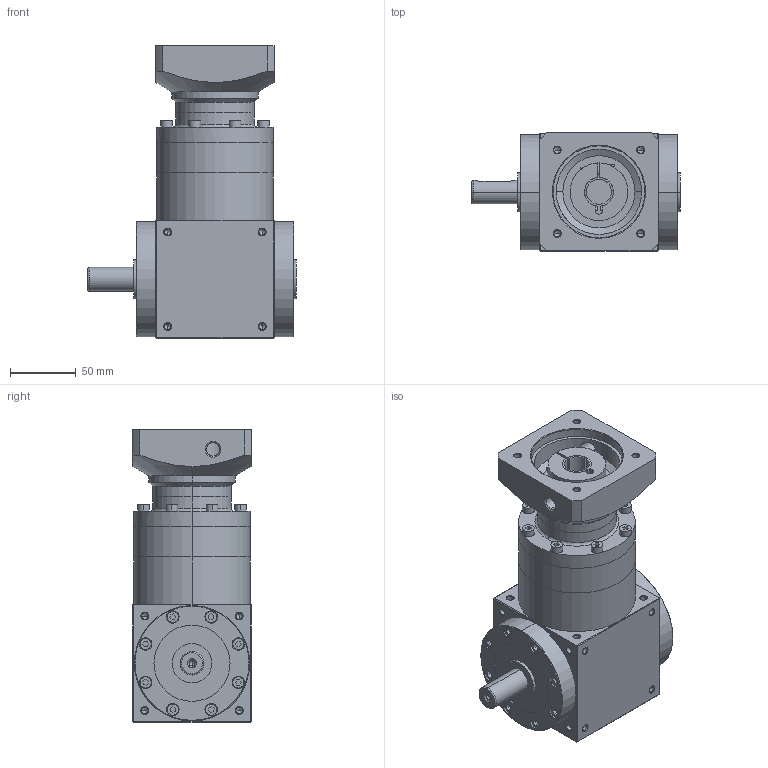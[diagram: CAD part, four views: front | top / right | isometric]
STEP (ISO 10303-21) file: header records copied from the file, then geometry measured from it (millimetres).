
FILE_DESCRIPTION (( 'STEP AP203' ), '1' );
FILE_NAME ('AT090-FL1-L3-19-70-90M6.STEP', '2025-12-13T02:34:12', ( 'Windows User' ), ( 'P R C' ), 'SwSTEP 2.0', 'SolidWorks 2016', '' );
FILE_SCHEMA (( 'CONFIG_CONTROL_DESIGN' ));
Length unit declared in the file: millimetre
Products named in the file (7): AT90双级齿圈; AT90输入法兰-E-70-M6-90; AT090-FL1-L3-19-70-90M6; AT90转角箱体-左单轴-输出; AT90蛌倰怀堤楊擘; AT90单级齿圈; 输入胀套-22
Assembly tree (6 placements, depth 2):
  AT090-FL1-L3-19-70-90M6
    AT90转角箱体-左单轴-输出
    AT90蛌倰怀堤楊擘
    AT90单级齿圈
    输入胀套-22
    AT90双级齿圈
    AT90输入法兰-E-70-M6-90
Bounding box: 159 x 90 x 223 mm (x, y, z)
Volume: 1228109.8 mm3; surface area: 207879.7 mm2
Topology: 6 solids, 18 shells, 1469 faces, 3711 edges, 2333 vertices
Faces by surface type: plane 744, cylinder 311, cone 235, bspline 179
Entity records: 52216 total; most frequent: CARTESIAN_POINT 17855, ORIENTED_EDGE 7230, DIRECTION 6355, EDGE_CURVE 3615, LINE 2371, VECTOR 2371, VERTEX_POINT 2332, AXIS2_PLACEMENT_3D 1992
